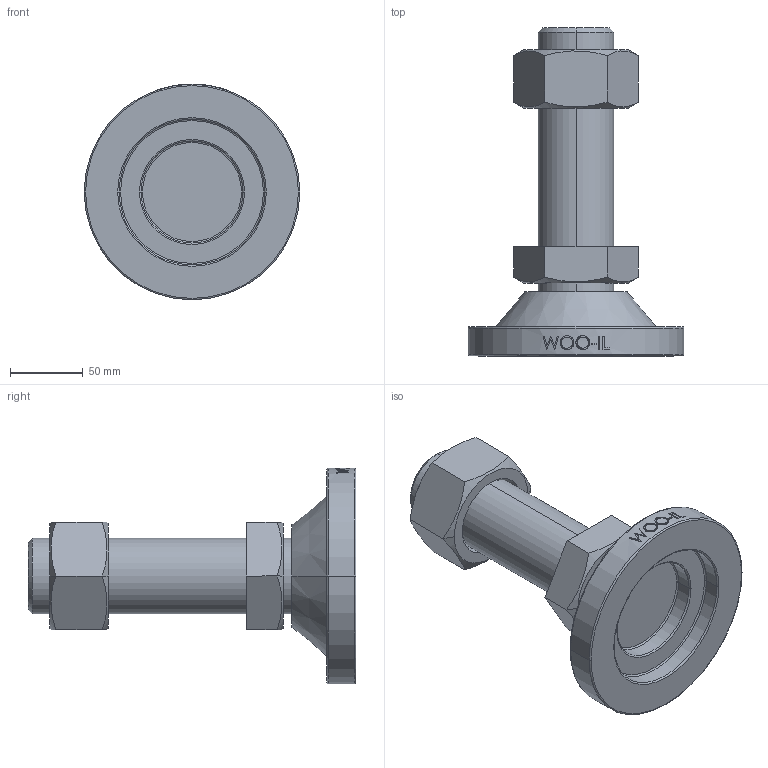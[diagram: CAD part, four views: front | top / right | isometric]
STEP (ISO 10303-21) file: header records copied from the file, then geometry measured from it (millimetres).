
FILE_DESCRIPTION (( 'STEP AP214' ), '1' );
FILE_NAME ('MFU148-M52-150.step', '2021-01-21T06:13:42', ( '' ), ( '' ), 'SwSTEP 2.0', 'SolidWorks 2019', '' );
FILE_SCHEMA (( 'AUTOMOTIVE_DESIGN' ));
Length unit declared in the file: millimetre
Products named in the file (2): MFU148-M52-150
Bounding box: 148 x 225 x 148 mm (x, y, z)
Volume: 909220.8 mm3; surface area: 109866.5 mm2
Topology: 2 solids, 2 shells, 111 faces, 255 edges, 162 vertices
Faces by surface type: plane 49, cylinder 20, bspline 16, cone 14, torus 12
Entity records: 4773 total; most frequent: CARTESIAN_POINT 2312, ORIENTED_EDGE 510, DIRECTION 471, EDGE_CURVE 255, AXIS2_PLACEMENT_3D 185, VERTEX_POINT 162, EDGE_LOOP 127, ADVANCED_FACE 111
